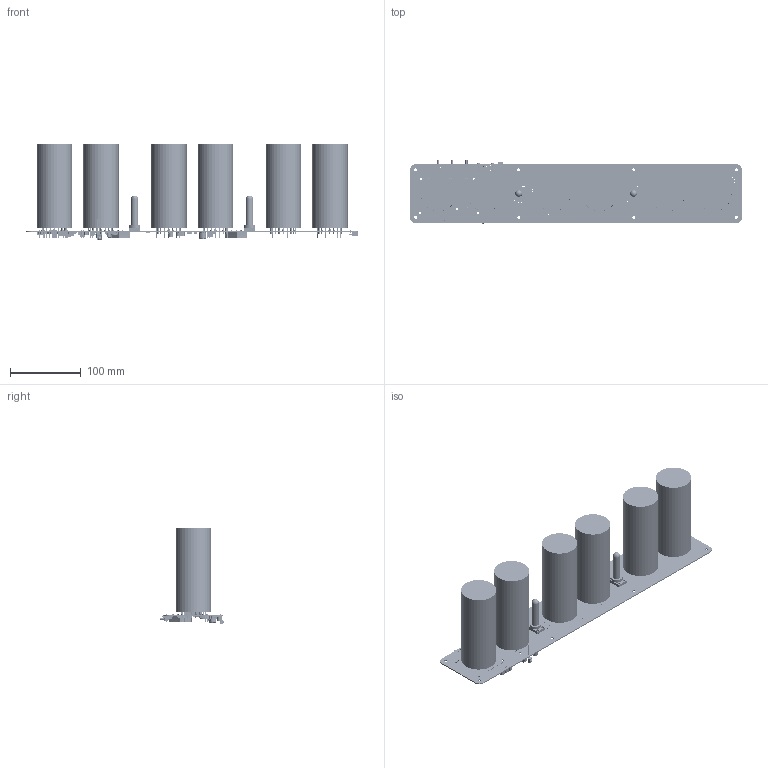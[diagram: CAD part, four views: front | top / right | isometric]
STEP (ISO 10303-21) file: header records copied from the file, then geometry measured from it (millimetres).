
FILE_DESCRIPTION(('Open CASCADE Model'),'2;1');
FILE_NAME('Open CASCADE Shape Model','2020-03-20T05:34:38',('Author'),( 'Open CASCADE'),'Open CASCADE STEP processor 6.8','Open CASCADE 6.8' ,'Unknown');
FILE_SCHEMA(('AUTOMOTIVE_DESIGN { 1 0 10303 214 1 1 1 1 }'));
Length unit declared in the file: millimetre
Products named in the file (1): PCB
Bounding box: 470 x 90.11 x 136.7 mm (x, y, z)
Volume: 1492818.8 mm3; surface area: 256286.7 mm2
Topology: 198 solids, 5709 shells, 13678 faces, 47929 edges, 40201 vertices
Faces by surface type: plane 7761, cylinder 4505, bspline 1081, sphere 276, cone 45, torus 10
Full cylindrical faces by diameter (mm): 0.8 x13, 0.9 x163, 1 x16, 1.1 x9, 1.3 x18, 1.4 x1, 1.5 x4, 1.92 x102, 3.3 x9, 4.3 x8, 50 x6
Entity records: 608058 total; most frequent: CARTESIAN_POINT 159148, DIRECTION 80927, ORIENTED_EDGE 67375, EDGE_CURVE 47462, VERTEX_POINT 40201, LINE 32819, VECTOR 32819, AXIS2_PLACEMENT_3D 24054
